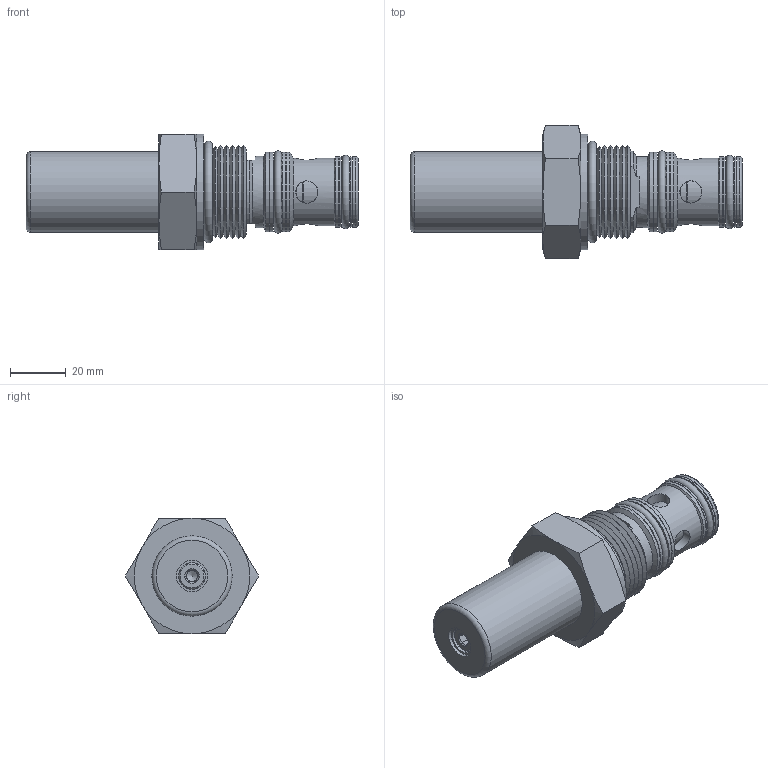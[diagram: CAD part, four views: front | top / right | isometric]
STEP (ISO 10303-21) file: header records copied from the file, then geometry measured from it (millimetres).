
FILE_DESCRIPTION((''),'2;1');
FILE_NAME('Q:\Delta CADD Insertion Codes\3D Solid models\Mechanical Valves\DWG\SLPWB0I.stp','2012-12-06T13:26:34',('Dan'),(''),'Autodesk Inventor 2012','Autodesk Inventor 2012','');
FILE_SCHEMA(('AUTOMOTIVE_DESIGN { 1 0 10303 214 1 1 1 1 }'));
Length unit declared in the file: inch
Products named in the file (9): Assembly22; Part298; Part300; Part302; Part304; Part306; Part308; Part310; Part312
Assembly tree (8 placements, depth 2):
  Assembly22
    Part298
    Part300
    Part302
    Part304
    Part306
    Part308
    Part310
    Part312
Bounding box: 118.62 x 47.66 x 41.27 mm (x, y, z)
Volume: 83752.9 mm3; surface area: 22109 mm2
Topology: 8 solids, 8 shells, 123 faces, 250 edges, 152 vertices
Faces by surface type: plane 44, cylinder 37, cone 37, torus 5
Full cylindrical faces by diameter (mm): 3.962 x1, 7.925 x4, 9.436 x1, 9.525 x2, 9.588 x1, 10.109 x1, 11.151 x1, 15.875 x1, 16.612 x2, 17.374 x1, 17.479 x1, 21.006 x1, 21.031 x2, 24.13 x1, 24.181 x1, 24.206 x2, 25.349 x4, 25.4 x1, 28.524 x4, 28.702 x1, 30.328 x1, 41.275 x1
Entity records: 3338 total; most frequent: CARTESIAN_POINT 792, DIRECTION 522, ORIENTED_EDGE 356, AXIS2_PLACEMENT_3D 246, EDGE_LOOP 217, EDGE_CURVE 178, VERTEX_POINT 142, FACE_OUTER_BOUND 123
